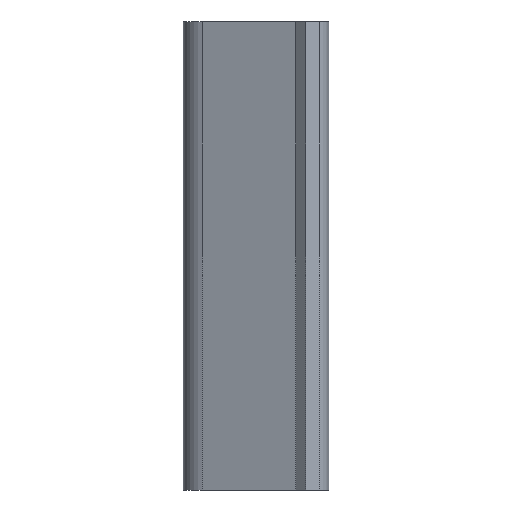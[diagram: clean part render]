
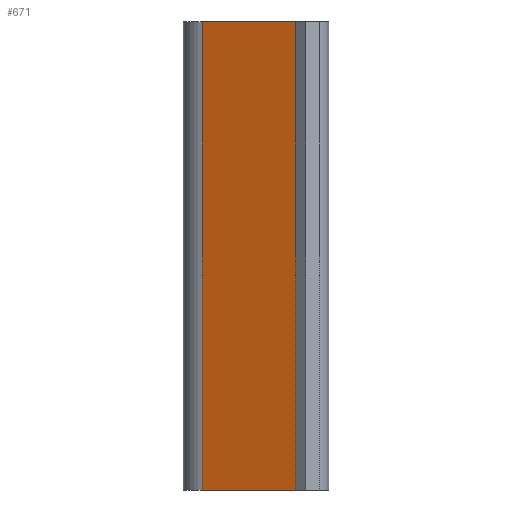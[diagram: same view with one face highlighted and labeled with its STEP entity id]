
A CAD part, left-side view. The second image highlights one B-rep face of the part: STEP entity #671.
In plain terms, the highlighted planar face has unit normal (-0.929, 0.369, 0).
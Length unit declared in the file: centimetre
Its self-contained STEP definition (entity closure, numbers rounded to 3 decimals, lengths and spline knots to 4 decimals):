
#38=PLANE('',#737);
#67=FACE_OUTER_BOUND('',#109,.T.);
#109=EDGE_LOOP('',(#546,#547,#548,#549));
#203=LINE('',#1113,#267);
#204=LINE('',#1119,#268);
#205=LINE('',#1120,#269);
#206=LINE('',#1121,#270);
#267=VECTOR('',#909,1.);
#268=VECTOR('',#916,1.);
#269=VECTOR('',#917,1.);
#270=VECTOR('',#918,1.);
#336=VERTEX_POINT('',#1111);
#337=VERTEX_POINT('',#1112);
#338=VERTEX_POINT('',#1117);
#339=VERTEX_POINT('',#1118);
#423=EDGE_CURVE('',#336,#337,#203,.T.);
#426=EDGE_CURVE('',#338,#339,#204,.T.);
#427=EDGE_CURVE('',#338,#336,#205,.T.);
#428=EDGE_CURVE('',#337,#339,#206,.T.);
#546=ORIENTED_EDGE('',*,*,#426,.F.);
#547=ORIENTED_EDGE('',*,*,#427,.T.);
#548=ORIENTED_EDGE('',*,*,#423,.T.);
#549=ORIENTED_EDGE('',*,*,#428,.T.);
#671=ADVANCED_FACE('',(#67),#38,.T.);
#737=AXIS2_PLACEMENT_3D('',#1116,#914,#915);
#909=DIRECTION('',(0.,0.,1.));
#914=DIRECTION('center_axis',(-0.929,0.369,0.));
#915=DIRECTION('ref_axis',(0.,0.,1.));
#916=DIRECTION('',(0.,0.,1.));
#917=DIRECTION('',(-0.369,-0.929,0.));
#918=DIRECTION('',(0.369,0.929,0.));
#1111=CARTESIAN_POINT('',(311.5811,363.5491,0.));
#1112=CARTESIAN_POINT('',(311.5811,363.5491,138.));
#1113=CARTESIAN_POINT('',(311.5811,363.5491,-15.));
#1116=CARTESIAN_POINT('Origin',(311.5811,363.5491,0.));
#1117=CARTESIAN_POINT('',(323.572,393.7198,0.));
#1118=CARTESIAN_POINT('',(323.572,393.7198,138.));
#1119=CARTESIAN_POINT('',(323.572,393.7198,-15.));
#1120=CARTESIAN_POINT('',(323.572,393.7198,0.));
#1121=CARTESIAN_POINT('',(323.572,393.7198,138.));
